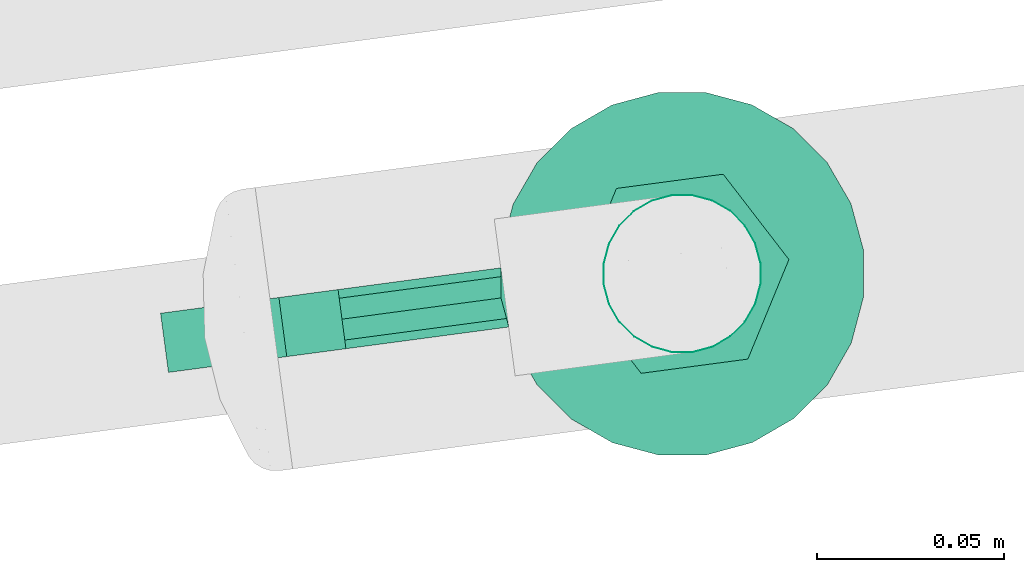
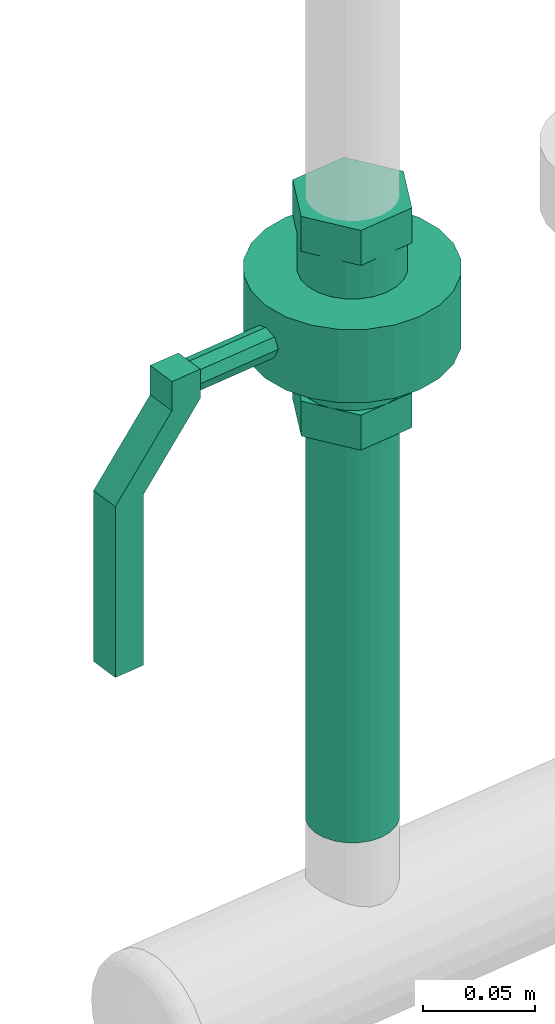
# One storey, part 329 of 374: 1 flow controller, 1 flow segment.
"""IFC2X3 building model written with IfcOpenShell, lengths in metres."""

from ifc_helpers import new_model, si_unit, direction, origin, place, context, subcontext, project, spatial, open_shell, surface_model, source, transform, mapped, element, save


model = new_model("IFC2X3")

# Units and contexts
model_context = context("Model", 3, precision=1e-05, world=origin(), true_north=direction((-0.4480736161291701, 0.8939966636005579)))
body_context = subcontext(model_context, "Body", "Model", "MODEL_VIEW")
ifc_project = project(units=[si_unit("LENGTHUNIT", "METRE"), si_unit("AREAUNIT", "SQUARE_METRE"), si_unit("VOLUMEUNIT", "CUBIC_METRE"), si_unit("PLANEANGLEUNIT", "RADIAN"), si_unit("THERMODYNAMICTEMPERATUREUNIT", "KELVIN"), si_unit("MASSUNIT", "GRAM", prefix="KILO"), si_unit("TIMEUNIT", "SECOND")], contexts=[model_context])

# Site, building, storey
site_placement = place(None, origin())
site = spatial("IfcSite", under=ifc_project, at=site_placement, Name="Site 1", CompositionType="ELEMENT")
building_placement = place(site_placement, origin())
building = spatial("IfcBuilding", under=site, at=building_placement, Name="Undefined", CompositionType="ELEMENT")
storey_placement = place(building_placement, origin())
storey = spatial("IfcBuildingStorey", under=building, at=storey_placement, Name="Rez de chauss\x8ee", CompositionType="ELEMENT", Elevation=0.0)

# Flow controller
shared_shape_1 = source(origin(), body_context, "Body", "SurfaceModel", [
    surface_model("IfcFaceBasedSurfaceModel", [(0.0, 0.0, 0.0), (0.016000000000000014, 0.0, 0.0), (0.016000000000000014, 0.015999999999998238, 0.0), (0.0, 0.015999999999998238, 0.0), (0.016000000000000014, 0.0, -0.016000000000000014), (0.016000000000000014, 0.015999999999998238, -0.016000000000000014), (0.0, 0.0, -0.016000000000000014), (0.0, 0.015999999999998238, -0.016000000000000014), (-0.03866666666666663, 1.4210854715e-14, -0.04800000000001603), (-0.03866666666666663, 0.016000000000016, -0.04800000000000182), (-0.1319999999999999, 1.4210854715e-14, -0.04800000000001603), (-0.1319999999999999, 0.016000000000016, -0.04800000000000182), (-0.1319999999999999, 1.0658141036e-14, -0.03200000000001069), (-0.1319999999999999, 0.01600000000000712, -0.031999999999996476), (-0.03866666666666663, 1.0658141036e-14, -0.03200000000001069), (-0.03866666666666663, 0.01600000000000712, -0.031999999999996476), (0.06800000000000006, 0.03299999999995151, 0.10643375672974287), (0.06800000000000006, 0.0329999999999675, 0.07756624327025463), (0.048900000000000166, 0.0329999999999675, 0.07756624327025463), (0.048900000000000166, 0.03299999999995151, 0.10643375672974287), (0.06800000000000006, 0.007999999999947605, 0.12086751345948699), (0.048900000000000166, 0.007999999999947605, 0.12086751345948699), (0.06800000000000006, -0.017000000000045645, 0.10643375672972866), (0.048900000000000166, -0.017000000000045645, 0.10643375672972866), (0.06800000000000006, -0.017000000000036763, 0.07756624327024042), (0.048900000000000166, -0.017000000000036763, 0.07756624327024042), (0.06800000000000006, 0.007999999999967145, 0.06313248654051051), (0.048900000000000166, 0.007999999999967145, 0.06313248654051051), (0.048900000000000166, -0.017000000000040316, 0.09199999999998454), (0.048900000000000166, -0.01614814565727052, 0.09847047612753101), (0.028000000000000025, -0.01614814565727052, 0.09847047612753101), (0.028000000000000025, -0.017000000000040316, 0.09199999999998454), (0.048900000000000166, -0.013650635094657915, 0.10449999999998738), (0.028000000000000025, -0.013650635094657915, 0.10449999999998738), (0.048900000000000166, -0.009677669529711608, 0.10967766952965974), (0.028000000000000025, -0.009677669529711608, 0.10967766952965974), (0.048900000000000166, -0.004500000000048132, 0.1136506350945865), (0.028000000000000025, -0.004500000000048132, 0.1136506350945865), (0.048900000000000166, 0.001529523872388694, 0.11614814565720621), (0.028000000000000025, 0.001529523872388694, 0.11614814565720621), (0.048900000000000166, 0.007999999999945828, 0.11699999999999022), (0.028000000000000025, 0.007999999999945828, 0.11699999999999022), (0.048900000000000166, 0.014470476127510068, 0.11614814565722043), (0.028000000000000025, 0.014470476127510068, 0.11614814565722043), (0.048900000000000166, 0.02049999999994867, 0.11365063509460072), (0.028000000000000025, 0.02049999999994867, 0.11365063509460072), (0.048900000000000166, 0.025677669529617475, 0.10967766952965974), (0.028000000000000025, 0.025677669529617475, 0.10967766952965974), (0.048900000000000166, 0.029650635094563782, 0.1045000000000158), (0.028000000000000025, 0.029650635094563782, 0.1045000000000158), (0.048900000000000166, 0.03214814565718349, 0.09847047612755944), (0.028000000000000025, 0.03214814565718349, 0.09847047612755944), (0.048900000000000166, 0.03299999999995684, 0.09200000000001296), (0.028000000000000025, 0.03299999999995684, 0.09200000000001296), (0.048900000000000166, 0.03214814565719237, 0.08552952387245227), (0.028000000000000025, 0.03214814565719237, 0.08552952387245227), (0.048900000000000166, 0.029650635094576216, 0.07949999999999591), (0.028000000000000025, 0.029650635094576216, 0.07949999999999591), (0.048900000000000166, 0.025677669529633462, 0.07432233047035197), (0.028000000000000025, 0.025677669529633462, 0.07432233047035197), (0.048900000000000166, 0.020499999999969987, 0.07034936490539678), (0.028000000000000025, 0.020499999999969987, 0.07034936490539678), (0.048900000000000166, 0.01447047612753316, 0.06785185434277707), (0.028000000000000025, 0.01447047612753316, 0.06785185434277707), (0.048900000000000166, 0.007999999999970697, 0.06699999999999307), (0.028000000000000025, 0.007999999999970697, 0.06699999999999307), (0.048900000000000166, 0.0015295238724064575, 0.06785185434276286), (0.028000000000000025, 0.0015295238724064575, 0.06785185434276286), (0.048900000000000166, -0.004500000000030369, 0.07034936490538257), (0.028000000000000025, -0.004500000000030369, 0.07034936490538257), (0.048900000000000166, -0.00967766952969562, 0.07432233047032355), (0.028000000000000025, -0.00967766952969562, 0.07432233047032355), (0.048900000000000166, -0.013650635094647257, 0.07949999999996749), (0.028000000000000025, -0.013650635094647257, 0.07949999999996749), (0.048900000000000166, -0.01614814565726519, 0.08552952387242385), (0.028000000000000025, -0.01614814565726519, 0.08552952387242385), (0.028000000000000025, -0.041000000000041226, 0.09199999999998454), (0.028000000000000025, -0.039330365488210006, 0.10468213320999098), (-0.01200000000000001, -0.039330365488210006, 0.10468213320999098), (-0.01200000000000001, -0.041000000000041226, 0.09199999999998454), (0.028000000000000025, -0.034435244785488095, 0.11649999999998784), (-0.01200000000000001, -0.034435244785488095, 0.11649999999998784), (0.028000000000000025, -0.02664823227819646, 0.1266482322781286), (-0.01200000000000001, -0.02664823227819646, 0.1266482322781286), (0.028000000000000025, -0.01650000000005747, 0.13443524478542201), (-0.01200000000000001, -0.01650000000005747, 0.13443524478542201), (0.028000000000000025, -0.004682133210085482, 0.13933036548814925), (-0.01200000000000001, -0.004682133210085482, 0.13933036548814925), (0.028000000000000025, 0.0079999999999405, 0.14099999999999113), (-0.01200000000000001, 0.0079999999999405, 0.14099999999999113), (0.028000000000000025, 0.02068213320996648, 0.13933036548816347), (-0.01200000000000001, 0.02068213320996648, 0.13933036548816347), (0.028000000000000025, 0.032499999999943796, 0.13443524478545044), (-0.01200000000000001, 0.032499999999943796, 0.13443524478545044), (0.028000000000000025, 0.04264823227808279, 0.1266482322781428), (-0.01200000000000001, 0.04264823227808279, 0.1266482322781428), (0.028000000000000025, 0.05043524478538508, 0.11650000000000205), (-0.01200000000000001, 0.05043524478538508, 0.11650000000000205), (0.028000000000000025, 0.055330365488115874, 0.10468213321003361), (-0.01200000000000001, 0.055330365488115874, 0.10468213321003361), (0.028000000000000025, 0.056999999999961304, 0.09200000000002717), (-0.01200000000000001, 0.056999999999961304, 0.09200000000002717), (0.028000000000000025, 0.05533036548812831, 0.07931786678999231), (-0.01200000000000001, 0.05533036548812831, 0.07931786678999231), (0.028000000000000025, 0.05043524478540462, 0.06750000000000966), (-0.01200000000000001, 0.05043524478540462, 0.06750000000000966), (0.028000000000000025, 0.04264823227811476, 0.057351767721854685), (-0.01200000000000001, 0.04264823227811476, 0.057351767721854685), (0.028000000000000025, 0.03249999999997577, 0.049564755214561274), (-0.01200000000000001, 0.03249999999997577, 0.049564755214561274), (0.028000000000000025, 0.020682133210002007, 0.04466963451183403), (-0.01200000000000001, 0.020682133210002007, 0.04466963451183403), (0.028000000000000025, 0.007999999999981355, 0.042999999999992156), (-0.01200000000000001, 0.007999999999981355, 0.042999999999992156), (0.028000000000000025, -0.004682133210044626, 0.04466963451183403), (-0.01200000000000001, -0.004682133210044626, 0.04466963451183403), (0.028000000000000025, -0.016500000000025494, 0.04956475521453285), (-0.01200000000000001, -0.016500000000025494, 0.04956475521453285), (0.028000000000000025, -0.02664823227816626, 0.057351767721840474), (-0.01200000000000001, -0.02664823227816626, 0.057351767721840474), (0.028000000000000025, -0.034435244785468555, 0.06749999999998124), (-0.01200000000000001, -0.034435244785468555, 0.06749999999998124), (0.028000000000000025, -0.03933036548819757, 0.07931786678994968), (-0.01200000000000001, -0.03933036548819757, 0.07931786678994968), (0.028000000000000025, 0.007999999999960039, 0.09199999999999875), (-0.01200000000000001, 0.007999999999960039, 0.09199999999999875), (-0.01200000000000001, -0.017000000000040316, 0.09199999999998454), (-0.01200000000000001, -0.01614814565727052, 0.09847047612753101), (-0.03289999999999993, -0.01614814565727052, 0.09847047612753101), (-0.03289999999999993, -0.017000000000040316, 0.09199999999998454), (-0.01200000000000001, -0.013650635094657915, 0.10449999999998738), (-0.03289999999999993, -0.013650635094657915, 0.10449999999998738), (-0.01200000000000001, -0.009677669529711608, 0.10967766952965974), (-0.03289999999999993, -0.009677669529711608, 0.10967766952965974), (-0.01200000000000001, -0.004500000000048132, 0.1136506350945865), (-0.03289999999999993, -0.004500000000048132, 0.1136506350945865), (-0.01200000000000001, 0.001529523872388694, 0.11614814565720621), (-0.03289999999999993, 0.001529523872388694, 0.11614814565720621), (-0.01200000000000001, 0.007999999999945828, 0.11699999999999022), (-0.03289999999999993, 0.007999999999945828, 0.11699999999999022), (-0.01200000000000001, 0.014470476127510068, 0.11614814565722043), (-0.03289999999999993, 0.014470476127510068, 0.11614814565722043), (-0.01200000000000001, 0.02049999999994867, 0.11365063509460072), (-0.03289999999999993, 0.02049999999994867, 0.11365063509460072), (-0.01200000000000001, 0.025677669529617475, 0.10967766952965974), (-0.03289999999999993, 0.025677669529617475, 0.10967766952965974), (-0.01200000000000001, 0.029650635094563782, 0.1045000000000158), (-0.03289999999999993, 0.029650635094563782, 0.1045000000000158), (-0.01200000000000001, 0.03214814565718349, 0.09847047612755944), (-0.03289999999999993, 0.03214814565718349, 0.09847047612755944), (-0.01200000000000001, 0.03299999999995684, 0.09200000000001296), (-0.03289999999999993, 0.03299999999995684, 0.09200000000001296), (-0.01200000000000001, 0.03214814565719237, 0.08552952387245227), (-0.03289999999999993, 0.03214814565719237, 0.08552952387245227), (-0.01200000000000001, 0.029650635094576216, 0.07949999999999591), (-0.03289999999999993, 0.029650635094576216, 0.07949999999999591), (-0.01200000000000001, 0.025677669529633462, 0.07432233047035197), (-0.03289999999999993, 0.025677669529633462, 0.07432233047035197), (-0.01200000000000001, 0.020499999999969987, 0.07034936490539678), (-0.03289999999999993, 0.020499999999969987, 0.07034936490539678), (-0.01200000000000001, 0.01447047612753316, 0.06785185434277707), (-0.03289999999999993, 0.01447047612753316, 0.06785185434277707), (-0.01200000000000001, 0.007999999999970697, 0.06699999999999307), (-0.03289999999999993, 0.007999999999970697, 0.06699999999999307), (-0.01200000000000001, 0.0015295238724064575, 0.06785185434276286), (-0.03289999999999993, 0.0015295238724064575, 0.06785185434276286), (-0.01200000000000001, -0.004500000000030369, 0.07034936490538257), (-0.03289999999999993, -0.004500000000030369, 0.07034936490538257), (-0.01200000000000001, -0.00967766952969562, 0.07432233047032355), (-0.03289999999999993, -0.00967766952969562, 0.07432233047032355), (-0.01200000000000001, -0.013650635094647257, 0.07949999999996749), (-0.03289999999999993, -0.013650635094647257, 0.07949999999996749), (-0.01200000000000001, -0.01614814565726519, 0.08552952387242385), (-0.03289999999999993, -0.01614814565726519, 0.08552952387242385), (-0.03289999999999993, 0.03299999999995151, 0.10643375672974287), (-0.03289999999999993, 0.0329999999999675, 0.07756624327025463), (-0.051999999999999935, 0.0329999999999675, 0.07756624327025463), (-0.051999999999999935, 0.03299999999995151, 0.10643375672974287), (-0.03289999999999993, 0.007999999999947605, 0.12086751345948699), (-0.051999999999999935, 0.007999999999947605, 0.12086751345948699), (-0.03289999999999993, -0.017000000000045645, 0.10643375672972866), (-0.051999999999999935, -0.017000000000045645, 0.10643375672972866), (-0.03289999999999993, -0.017000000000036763, 0.07756624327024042), (-0.051999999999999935, -0.017000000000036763, 0.07756624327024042), (-0.03289999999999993, 0.007999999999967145, 0.06313248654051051), (-0.051999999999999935, 0.007999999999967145, 0.06313248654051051), (0.0, 0.008000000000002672, 0.09200000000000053), (0.002343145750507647, 0.013656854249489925, 0.09200000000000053), (0.002343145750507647, 0.013656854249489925, 0.0), (0.0, 0.008, 0.0), (0.008000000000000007, 0.015999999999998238, 0.09200000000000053), (0.008000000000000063, 0.015999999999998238, 0.0), (0.013656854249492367, 0.013656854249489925, 0.09200000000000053), (0.013656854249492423, 0.013656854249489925, 0.0), (0.016000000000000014, 0.008000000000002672, 0.09200000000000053), (0.016000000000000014, 0.008000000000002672, 0.0), (0.013656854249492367, 0.002343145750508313, 0.09200000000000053), (0.013656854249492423, 0.002343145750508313, 0.0), (0.008000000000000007, 0.0, 0.09200000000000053), (0.008000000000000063, 0.0, 0.0), (0.002343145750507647, 0.002343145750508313, 0.09200000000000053), (0.002343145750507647, 0.002343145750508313, 0.0)], [open_shell([[[0, 1, 2, 3]], [[1, 4, 5, 2]], [[4, 6, 7, 5]], [[6, 8, 9, 7]], [[8, 10, 11, 9]], [[10, 12, 13, 11]], [[12, 14, 15, 13]], [[14, 0, 3, 15]], [[2, 7, 3]], [[9, 3, 7]], [[3, 9, 15]], [[11, 15, 9]], [[15, 11, 13]], [[7, 2, 5]], [[0, 6, 1]], [[6, 0, 8]], [[14, 8, 0]], [[8, 14, 10]], [[12, 10, 14]], [[4, 1, 6]], [[16, 17, 18, 19]], [[20, 16, 19, 21]], [[22, 20, 21, 23]], [[24, 22, 23, 25]], [[26, 24, 25, 27]], [[17, 26, 27, 18]], [[17, 16, 20]], [[17, 20, 22]], [[17, 22, 24]], [[17, 24, 26]], [[18, 21, 19]], [[18, 23, 21]], [[18, 25, 23]], [[18, 27, 25]], [[28, 29, 30, 31]], [[29, 32, 33, 30]], [[32, 34, 35, 33]], [[34, 36, 37, 35]], [[36, 38, 39, 37]], [[38, 40, 41, 39]], [[40, 42, 43, 41]], [[42, 44, 45, 43]], [[44, 46, 47, 45]], [[46, 48, 49, 47]], [[48, 50, 51, 49]], [[50, 52, 53, 51]], [[52, 54, 55, 53]], [[54, 56, 57, 55]], [[56, 58, 59, 57]], [[58, 60, 61, 59]], [[60, 62, 63, 61]], [[62, 64, 65, 63]], [[64, 66, 67, 65]], [[66, 68, 69, 67]], [[68, 70, 71, 69]], [[70, 72, 73, 71]], [[72, 74, 75, 73]], [[74, 28, 31, 75]], [[76, 77, 78, 79]], [[77, 80, 81, 78]], [[80, 82, 83, 81]], [[82, 84, 85, 83]], [[84, 86, 87, 85]], [[86, 88, 89, 87]], [[88, 90, 91, 89]], [[90, 92, 93, 91]], [[92, 94, 95, 93]], [[94, 96, 97, 95]], [[96, 98, 99, 97]], [[98, 100, 101, 99]], [[100, 102, 103, 101]], [[102, 104, 105, 103]], [[104, 106, 107, 105]], [[106, 108, 109, 107]], [[108, 110, 111, 109]], [[110, 112, 113, 111]], [[112, 114, 115, 113]], [[114, 116, 117, 115]], [[116, 118, 119, 117]], [[118, 120, 121, 119]], [[120, 122, 123, 121]], [[122, 76, 79, 123]], [[124, 77, 76]], [[124, 80, 77]], [[124, 82, 80]], [[124, 84, 82]], [[124, 86, 84]], [[124, 88, 86]], [[124, 90, 88]], [[124, 92, 90]], [[124, 94, 92]], [[124, 96, 94]], [[124, 98, 96]], [[124, 100, 98]], [[124, 102, 100]], [[124, 104, 102]], [[124, 106, 104]], [[124, 108, 106]], [[124, 110, 108]], [[124, 112, 110]], [[124, 114, 112]], [[124, 116, 114]], [[124, 118, 116]], [[124, 120, 118]], [[124, 122, 120]], [[124, 76, 122]], [[125, 123, 79]], [[125, 121, 123]], [[125, 119, 121]], [[125, 117, 119]], [[125, 115, 117]], [[125, 113, 115]], [[125, 111, 113]], [[125, 109, 111]], [[125, 107, 109]], [[125, 105, 107]], [[125, 103, 105]], [[125, 101, 103]], [[125, 99, 101]], [[125, 97, 99]], [[125, 95, 97]], [[125, 93, 95]], [[125, 91, 93]], [[125, 89, 91]], [[125, 87, 89]], [[125, 85, 87]], [[125, 83, 85]], [[125, 81, 83]], [[125, 78, 81]], [[125, 79, 78]], [[126, 127, 128, 129]], [[127, 130, 131, 128]], [[130, 132, 133, 131]], [[132, 134, 135, 133]], [[134, 136, 137, 135]], [[136, 138, 139, 137]], [[138, 140, 141, 139]], [[140, 142, 143, 141]], [[142, 144, 145, 143]], [[144, 146, 147, 145]], [[146, 148, 149, 147]], [[148, 150, 151, 149]], [[150, 152, 153, 151]], [[152, 154, 155, 153]], [[154, 156, 157, 155]], [[156, 158, 159, 157]], [[158, 160, 161, 159]], [[160, 162, 163, 161]], [[162, 164, 165, 163]], [[164, 166, 167, 165]], [[166, 168, 169, 167]], [[168, 170, 171, 169]], [[170, 172, 173, 171]], [[172, 126, 129, 173]], [[174, 175, 176, 177]], [[178, 174, 177, 179]], [[180, 178, 179, 181]], [[182, 180, 181, 183]], [[184, 182, 183, 185]], [[175, 184, 185, 176]], [[175, 174, 178]], [[175, 178, 180]], [[175, 180, 182]], [[175, 182, 184]], [[176, 179, 177]], [[176, 181, 179]], [[176, 183, 181]], [[176, 185, 183]], [[186, 187, 188, 189]], [[187, 190, 191, 188]], [[190, 192, 193, 191]], [[192, 194, 195, 193]], [[194, 196, 197, 195]], [[196, 198, 199, 197]], [[198, 200, 201, 199]], [[200, 186, 189, 201]]])]),
])
flow_controller_placement = place(storey_placement, origin())
element("IfcFlowController", 1, at=flow_controller_placement, inside=storey, Name="Robinet à boisseau sphérique", ObjectType="Robinet à boisseau sphérique", context=body_context, shape_type="MappedRepresentation", body=[
    mapped(shared_shape_1, transform((65.84810073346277, 20.333584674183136, 1.0402465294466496), x_axis=(0.0, 0.0, 1.0), y_axis=(0.13225639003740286, -0.9912155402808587, 0.0), z_axis=(0.9912155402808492, 0.13225639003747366, 0.0))),
])

# Flow segment
shared_shape_2 = source(origin(), body_context, "Body", "SurfaceModel", [
    surface_model("IfcFaceBasedSurfaceModel", [(0.0, 0.005534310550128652, 0.0), (0.0, 0.0, 0.0), (0.23886368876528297, 0.0, 0.0), (0.23886368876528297, 0.005534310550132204, 0.0), (0.0, -0.00534573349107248, -0.0014323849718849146), (0.23886368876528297, -0.005345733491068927, -0.0014323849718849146), (0.0, -0.010138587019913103, -0.004199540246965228), (0.23886368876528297, -0.01013858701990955, -0.004199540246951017), (0.0, -0.01405193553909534, -0.008112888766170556), (0.23886368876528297, -0.014051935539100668, -0.008112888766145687), (0.0, -0.016819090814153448, -0.012905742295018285), (0.23886368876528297, -0.01681909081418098, -0.012905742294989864), (0.0, -0.018251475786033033, -0.018251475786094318), (0.23886368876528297, -0.01825147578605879, -0.018251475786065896), (0.0, -0.0182514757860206, -0.02378578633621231), (0.23886368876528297, -0.01825147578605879, -0.0237857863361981), (0.0, -0.01681909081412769, -0.029131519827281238), (0.23886368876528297, -0.01681909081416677, -0.02913151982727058), (0.0, -0.014051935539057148, -0.03392437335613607), (0.23886368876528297, -0.014051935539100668, -0.033924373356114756), (0.0, -0.010138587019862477, -0.037837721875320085), (0.23886368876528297, -0.010138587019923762, -0.03783772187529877), (0.0, -0.005345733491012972, -0.040604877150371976), (0.23886368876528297, -0.005345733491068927, -0.04060487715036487), (0.0, 6.4837024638e-14, -0.042037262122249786), (0.23886368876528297, 1.4210854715e-14, -0.042037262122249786), (0.0, 0.005534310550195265, -0.04203726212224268), (0.23886368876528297, 0.005534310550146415, -0.042037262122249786), (0.0, 0.010880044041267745, -0.04060487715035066), (0.23886368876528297, 0.010880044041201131, -0.04060487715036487), (0.0, 0.01567289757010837, -0.03783772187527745), (0.23886368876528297, 0.015672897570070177, -0.03783772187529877), (0.0, 0.019586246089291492, -0.033924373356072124), (0.23886368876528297, 0.019586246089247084, -0.033924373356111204), (0.0, 0.0223534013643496, -0.029131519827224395), (0.23886368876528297, 0.022353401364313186, -0.029131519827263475), (0.0, 0.02378578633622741, -0.023785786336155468), (0.23886368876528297, 0.023785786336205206, -0.023785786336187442), (0.0, 0.023785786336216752, -0.01825147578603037), (0.23886368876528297, 0.023785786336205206, -0.018251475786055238), (0.0, 0.022353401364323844, -0.012905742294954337), (0.23886368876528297, 0.022353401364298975, -0.012905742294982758), (0.0, 0.019586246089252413, -0.008112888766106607), (0.23886368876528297, 0.019586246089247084, -0.008112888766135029), (0.0, 0.015672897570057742, -0.004199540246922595), (0.23886368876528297, 0.015672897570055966, -0.004199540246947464), (0.0, 0.010880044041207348, -0.0014323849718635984), (0.23886368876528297, 0.010880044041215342, -0.0014323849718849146)], [open_shell([[[0, 1, 2, 3]], [[1, 4, 5, 2]], [[4, 6, 7, 5]], [[6, 8, 9, 7]], [[8, 10, 11, 9]], [[10, 12, 13, 11]], [[12, 14, 15, 13]], [[14, 16, 17, 15]], [[16, 18, 19, 17]], [[18, 20, 21, 19]], [[20, 22, 23, 21]], [[22, 24, 25, 23]], [[24, 26, 27, 25]], [[26, 28, 29, 27]], [[28, 30, 31, 29]], [[30, 32, 33, 31]], [[32, 34, 35, 33]], [[34, 36, 37, 35]], [[36, 38, 39, 37]], [[38, 40, 41, 39]], [[40, 42, 43, 41]], [[42, 44, 45, 43]], [[44, 46, 47, 45]], [[46, 0, 3, 47]]])]),
])
flow_segment_placement = place(storey_placement, origin())
element("IfcFlowSegment", 2, at=flow_segment_placement, inside=storey, Name="Tube acier d'après DIN 2448", ObjectType="Tube acier d'après DIN 2448", context=body_context, shape_type="MappedRepresentation", body=[
    mapped(shared_shape_2, transform((65.94308108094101, 20.35884596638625, 1.0073465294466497), x_axis=(0.0, 0.0, -1.0), y_axis=(-0.9999984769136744, -0.0017453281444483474, 0.0), z_axis=(-0.001745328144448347, 0.9999984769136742, 0.0))),
])

save(model, "model.ifc")
